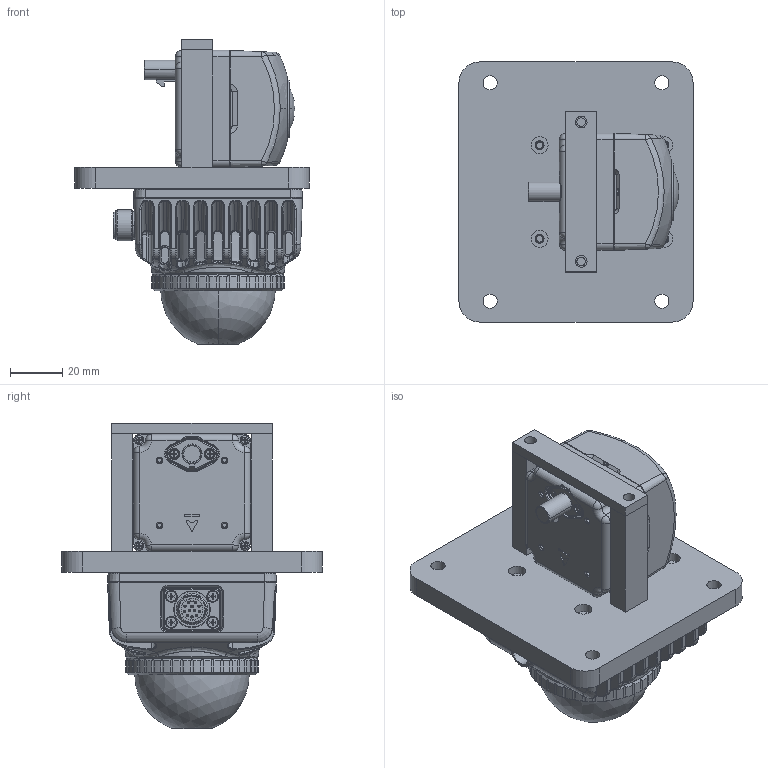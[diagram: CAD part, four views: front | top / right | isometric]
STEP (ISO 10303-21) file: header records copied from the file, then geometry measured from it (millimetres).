
FILE_DESCRIPTION(('Open CASCADE Model'),'2;1');
FILE_NAME('Open CASCADE Shape Model','2026-10-26T08:26:48',('Author'),( 'Open CASCADE'),'Open CASCADE STEP processor 7.8','Open CASCADE 7.8' ,'Unknown');
FILE_SCHEMA(('AUTOMOTIVE_DESIGN { 1 0 10303 214 1 1 1 1 }'));
Length unit declared in the file: millimetre
Products named in the file (8): C2_MID360_VERTICAL_STACK; plate; post_1; post_2; cap; top_pad; camera; lidar
Assembly tree (7 placements, depth 2):
  C2_MID360_VERTICAL_STACK
    plate
    post_1
    post_2
    cap
    top_pad
    camera
    lidar
Bounding box: 90 x 100 x 117.3 mm (x, y, z)
Volume: 203382.4 mm3; surface area: 93995.4 mm2
Topology: 13 solids, 46 shells, 2381 faces, 6302 edges, 4044 vertices
Faces by surface type: plane 812, cylinder 751, bspline 334, cone 267, torus 173, extrusion 24, sphere 20
Full cylindrical faces by diameter (mm): 3.3 x4, 3.4 x4, 4.5 x4, 5.5 x4, 6.5 x4, 8 x2
Entity records: 266274 total; most frequent: CARTESIAN_POINT 150397, DIRECTION 18953, ORIENTED_EDGE 12407, PCURVE 12407, DEFINITIONAL_REPRESENTATION 12407, VECTOR 10299, LINE 10275, EDGE_CURVE 6244
